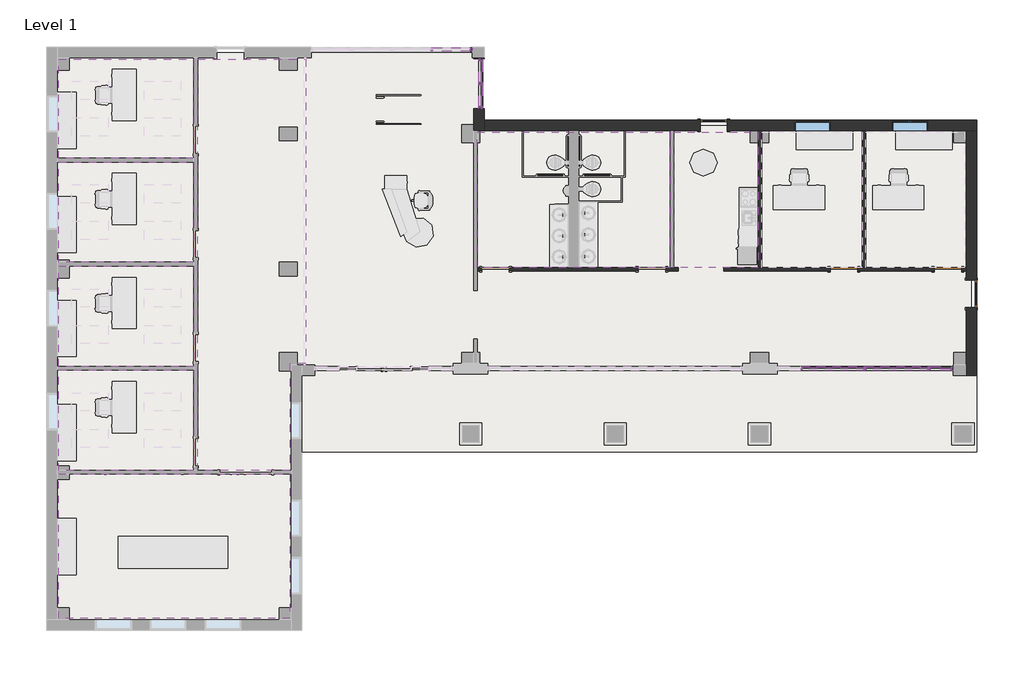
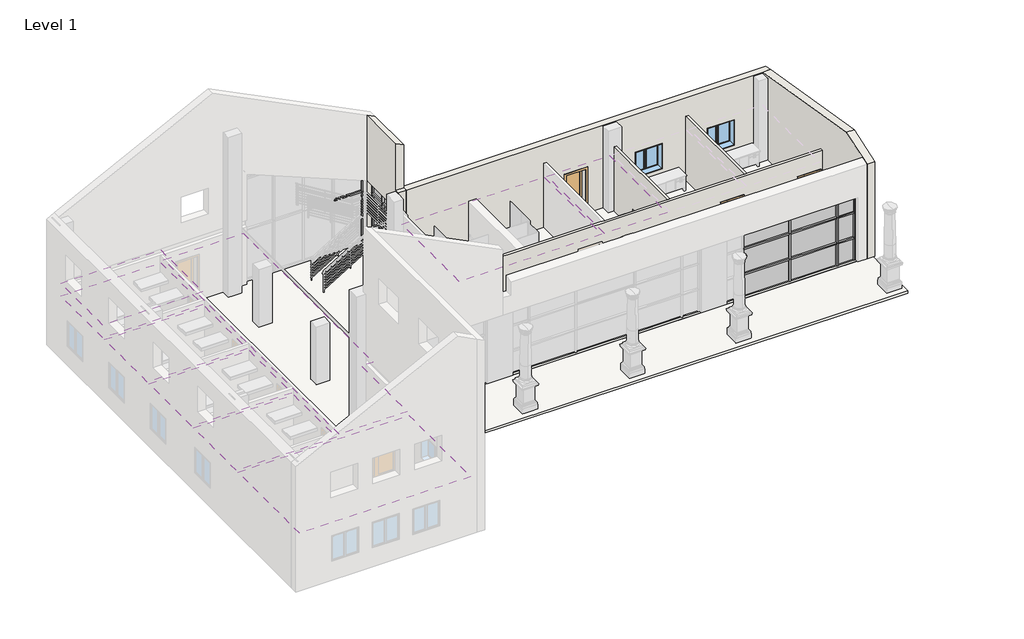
# One storey, part 3 of 8: 34 members, 13 plates, 9 coverings, 6 walls, 4 doors, 2 slabs, 2 windows.
"""IFC4 building model written with IfcOpenShell, lengths in millimetres."""

from ifc_helpers import new_model, si_unit, point, frame, origin, origin_with_axes, place, context, project, spatial, polyline, ellipse_curve, trimmed, outline, extrude, faceted_brep, transform, mapped, element, save
from ifc_brep_helpers import plane_surface, extruded_surface, advanced_brep
from components import door_88503111, door_14e9a3b2, door_2118299b, member_a715cb85, member_2b49869a, member_4f1c84db, member_a43dcf29, member_c4de40ee, member_75074519, member_3374d9b6, member_c17f1be2, member_f0fea5a5, member_ee409385, member_ba1b3d85, member_3a0a7659, member_7b995701, member_3ca69e07, member_338de68b, member_7b5ecba7, member_8ee6d85e, member_21124f0b, member_e196a3dc, system_panel_glazed_93fe6fa7, system_panel_glazed_6ce5e085, system_panel_glazed_6c402c5f, system_panel_glazed_28aac04d, system_panel_glazed_65d20654, system_panel_glazed_ef97d2b3, system_panel_glazed_49c46af5, system_panel_solid_fb0cd2a2, window_75435c65

model = new_model("IFC4")

# Units and contexts
model_context = context("Model", 3, world=origin())
ifc_project = project(units=[si_unit("LENGTHUNIT", "METRE", prefix="MILLI")], contexts=[model_context])

# Site, building, storey
site = spatial("IfcSite", under=ifc_project)
building = spatial("IfcBuilding", under=site)
storey = spatial("IfcBuildingStorey", under=building, Name="Level 1", Elevation=0.0)

# Coverings
placement = place(None, origin())
element("IfcCovering", 1, ObjectType="2' x 4' ACT System", at=placement, inside=storey, context=model_context, shape_type="SweptSolid", body=[
    extrude(outline(polyline([(-9011.7016552, 7211.1980424), (-13532.9016552, 7211.1980424), (-13532.9016552, 10517.9605424), (-9011.7016552, 10517.9605424), (-9011.7016552, 7211.1980424)])), frame((0.0, 0.0, 3048.0), z_axis=(0.0, 0.0, 1.0), x_axis=(1.0, 0.0, 0.0)), (0.0, 0.0, 1.0), 57.15),
])
element("IfcCovering", 2, ObjectType="2' x 4' ACT System", at=placement, inside=storey, context=model_context, shape_type="SweptSolid", body=[
    extrude(outline(polyline([(-9011.7016552, 10517.9605424), (-9011.7016552, 7211.1980424), (-13532.9016552, 7211.1980424), (-13532.9016552, 10517.9605424), (-9011.7016552, 10517.9605424)]), holes=[polyline([(-11881.9016552, 9778.9792924), (-13101.1016552, 9778.9792924), (-13101.1016552, 9169.3792924), (-11881.9016552, 9169.3792924), (-11881.9016552, 9778.9792924)]), polyline([(-9443.5016552, 9778.9792924), (-10662.7016552, 9778.9792924), (-10662.7016552, 9169.3792924), (-9443.5016552, 9169.3792924), (-9443.5016552, 9778.9792924)]), polyline([(-9443.5016552, 8559.7792924), (-10662.7016552, 8559.7792924), (-10662.7016552, 7950.1792924), (-9443.5016552, 7950.1792924), (-9443.5016552, 8559.7792924)]), polyline([(-11881.9016552, 8559.7792924), (-13101.1016552, 8559.7792924), (-13101.1016552, 7950.1792924), (-11881.9016552, 7950.1792924), (-11881.9016552, 8559.7792924)])]), frame((0.0, 0.0, 2438.4), z_axis=(0.0, 0.0, 1.0), x_axis=(1.0, 0.0, 0.0)), (0.0, 0.0, 1.0), 57.15),
])
element("IfcCovering", 3, ObjectType="2' x 4' ACT System", at=placement, inside=storey, context=model_context, shape_type="SweptSolid", body=[
    extrude(outline(polyline([(-13532.9016552, 7087.3730424), (-9011.7016552, 7087.3730424), (-9011.7016552, 3729.8105424), (-13532.9016552, 3729.8105424), (-13532.9016552, 7087.3730424)]), holes=[polyline([(-11881.9016552, 5713.3917924), (-11881.9016552, 6322.9917924), (-13101.1016552, 6322.9917924), (-13101.1016552, 5713.3917924), (-11881.9016552, 5713.3917924)]), polyline([(-10662.7016552, 5713.3917924), (-9443.5016552, 5713.3917924), (-9443.5016552, 6322.9917924), (-10662.7016552, 6322.9917924), (-10662.7016552, 5713.3917924)]), polyline([(-10662.7016552, 4494.1917924), (-9443.5016552, 4494.1917924), (-9443.5016552, 5103.7917924), (-10662.7016552, 5103.7917924), (-10662.7016552, 4494.1917924)]), polyline([(-11881.9016552, 5103.7917924), (-13101.1016552, 5103.7917924), (-13101.1016552, 4494.1917924), (-11881.9016552, 4494.1917924), (-11881.9016552, 5103.7917924)])]), frame((0.0, 0.0, 2438.4), z_axis=(0.0, 0.0, 1.0), x_axis=(1.0, 0.0, 0.0)), (0.0, 0.0, 1.0), 57.15),
])
element("IfcCovering", 4, ObjectType="2' x 4' ACT System", at=placement, inside=storey, context=model_context, shape_type="SweptSolid", body=[
    extrude(outline(polyline([(-13532.9016552, 3605.9855424), (-9011.7016552, 3605.9855424), (-9011.7016552, 248.4230424), (-13532.9016552, 248.4230424), (-13532.9016552, 3605.9855424)]), holes=[polyline([(-11881.9016552, 2232.0042924), (-11881.9016552, 2841.6042924), (-13101.1016552, 2841.6042924), (-13101.1016552, 2232.0042924), (-11881.9016552, 2232.0042924)]), polyline([(-10662.7016552, 2232.0042924), (-9443.5016552, 2232.0042924), (-9443.5016552, 2841.6042924), (-10662.7016552, 2841.6042924), (-10662.7016552, 2232.0042924)]), polyline([(-10662.7016552, 1012.8042924), (-9443.5016552, 1012.8042924), (-9443.5016552, 1622.4042924), (-10662.7016552, 1622.4042924), (-10662.7016552, 1012.8042924)]), polyline([(-11881.9016552, 1622.4042924), (-13101.1016552, 1622.4042924), (-13101.1016552, 1012.8042924), (-11881.9016552, 1012.8042924), (-11881.9016552, 1622.4042924)])]), frame((0.0, 0.0, 2438.4), z_axis=(0.0, 0.0, 1.0), x_axis=(1.0, 0.0, 0.0)), (0.0, 0.0, 1.0), 57.15),
])
element("IfcCovering", 5, ObjectType="2' x 4' ACT System", at=placement, inside=storey, context=model_context, shape_type="SweptSolid", body=[
    extrude(outline(polyline([(-13532.9016552, 124.5980424), (-9011.7016552, 124.5980424), (-9011.7016552, -3232.9644576), (-13532.9016552, -3232.9644576), (-13532.9016552, 124.5980424)]), holes=[polyline([(-11881.9016552, -1249.3832076), (-11881.9016552, -639.7832076), (-13101.1016552, -639.7832076), (-13101.1016552, -1249.3832076), (-11881.9016552, -1249.3832076)]), polyline([(-10662.7016552, -1249.3832076), (-9443.5016552, -1249.3832076), (-9443.5016552, -639.7832076), (-10662.7016552, -639.7832076), (-10662.7016552, -1249.3832076)]), polyline([(-10662.7016552, -2468.5832076), (-9443.5016552, -2468.5832076), (-9443.5016552, -1858.9832076), (-10662.7016552, -1858.9832076), (-10662.7016552, -2468.5832076)]), polyline([(-11881.9016552, -1858.9832076), (-13101.1016552, -1858.9832076), (-13101.1016552, -2468.5832076), (-11881.9016552, -2468.5832076), (-11881.9016552, -1858.9832076)])]), frame((0.0, 0.0, 2438.4), z_axis=(0.0, 0.0, 1.0), x_axis=(1.0, 0.0, 0.0)), (0.0, 0.0, 1.0), 57.15),
])
element("IfcCovering", 6, ObjectType="5/8\" GWB on Mtl. Stud", at=placement, inside=storey, context=model_context, shape_type="SweptSolid", body=[
    extrude(outline(polyline([(-13532.9016552, -3356.7894576), (-5804.9516552, -3356.7894576), (-5804.9516552, -8182.7894576), (-13532.9016552, -8182.7894576), (-13532.9016552, -3356.7894576)])), frame((0.0, 0.0, 2438.4), z_axis=(0.0, 0.0, 1.0), x_axis=(1.0, 0.0, 0.0)), (0.0, 0.0, 1.0), 107.95),
])
element("IfcCovering", 7, ObjectType="5/8\" GWB on Mtl. Stud", at=placement, inside=storey, context=model_context, shape_type="SweptSolid", body=[
    extrude(outline(polyline([(6904.5733448, 3558.3605424), (465.6733448, 3558.3605424), (465.6733448, 8079.5605424), (6904.5733448, 8079.5605424), (6904.5733448, 3558.3605424)])), frame((0.0, 0.0, 2438.4), z_axis=(0.0, 0.0, 1.0), x_axis=(1.0, 0.0, 0.0)), (0.0, 0.0, 1.0), 107.95),
])
element("IfcCovering", 8, ObjectType="5/8\" GWB on Mtl. Stud", at=placement, inside=storey, context=model_context, shape_type="SweptSolid", body=[
    extrude(outline(polyline([(9847.7983448, 3558.3605424), (7028.3983448, 3558.3605424), (7028.3983448, 8079.5605424), (9847.7983448, 8079.5605424), (9847.7983448, 3558.3605424)])), frame((0.0, 0.0, 2438.4), z_axis=(0.0, 0.0, 1.0), x_axis=(1.0, 0.0, 0.0)), (0.0, 0.0, 1.0), 107.95),
])
element("IfcCovering", 9, ObjectType="5/8\" GWB on Mtl. Stud", at=placement, inside=storey, context=model_context, shape_type="Brep", body=[
    faceted_brep([(-5804.9516552, -3232.9644576, 2647.95), (-5804.9516552, 351.6105424, 2647.95), (-5323.9391552, 351.6105424, 2647.95), (-5273.1391552, 351.6105424, 2647.95), (-5273.1391552, 10517.9605424, 2647.95), (-5323.9391552, 10517.9605424, 2647.95), (-8887.8766552, 10517.9605424, 2647.95), (-8887.8766552, -3232.9644576, 2647.95), (-6160.5516552, 3729.8105424, 2647.95), (-5550.9516552, 3729.8105424, 2647.95), (-5550.9516552, 3272.6105424, 2647.95), (-6160.5516552, 3272.6105424, 2647.95), (-6160.5516552, 8257.3605424, 2647.95), (-5550.9516552, 8257.3605424, 2647.95), (-5550.9516552, 7800.1605424, 2647.95), (-6160.5516552, 7800.1605424, 2647.95), (-5804.9516552, 351.6105424, 2540.0), (-5804.9516552, -3232.9644576, 2540.0), (-8887.8766552, -3232.9644576, 2540.0), (-8887.8766552, 10517.9605424, 2540.0), (-5323.9391552, 10517.9605424, 2540.0), (-5273.1391552, 10517.9605424, 2540.0), (-5273.1391552, 351.6105424, 2540.0), (-5323.9391552, 351.6105424, 2540.0), (-5550.9516552, 3729.8105424, 2540.0), (-6160.5516552, 3729.8105424, 2540.0), (-6160.5516552, 3272.6105424, 2540.0), (-5550.9516552, 3272.6105424, 2540.0), (-5550.9516552, 8257.3605424, 2540.0), (-6160.5516552, 8257.3605424, 2540.0), (-6160.5516552, 7800.1605424, 2540.0), (-5550.9516552, 7800.1605424, 2540.0)], [[[0, 1, 2, 3, 4, 5, 6, 7], [8, 9, 10, 11], [12, 13, 14, 15]], [[16, 17, 18, 19, 20, 21, 22, 23], [24, 25, 26, 27], [28, 29, 30, 31]], [[1, 0, 17, 16]], [[3, 2, 1, 16, 23, 22]], [[4, 3, 22, 21]], [[6, 5, 4, 21, 20, 19]], [[7, 6, 19, 18]], [[0, 7, 18, 17]], [[24, 9, 8, 25]], [[25, 8, 11, 26]], [[26, 11, 10, 27]], [[9, 24, 27, 10]], [[28, 13, 12, 29]], [[29, 12, 15, 30]], [[30, 15, 14, 31]], [[13, 28, 31, 14]]]),
])

# Doors
door_shape = door_88503111(model_context)
element("IfcDoor", 10, ObjectType="Single-Flush : 36\" x 84\"", at=placement, inside=storey, context=model_context, shape_type="MappedRepresentation", body=[
    mapped(door_shape, transform((16191.4483448, 3496.4480424, 0.0), x_axis=(1.0, 0.0, 0.0), y_axis=(0.0, 1.0, 0.0), z_axis=(0.0, 0.0, 1.0))),
])
element("IfcDoor", 11, ObjectType="Single-Flush : 36\" x 84\"", at=placement, inside=storey, context=model_context, shape_type="MappedRepresentation", body=[
    mapped(door_shape, transform((12714.8233448, 3496.4480424, 0.0), x_axis=(1.0, 0.0, 0.0), y_axis=(0.0, 1.0, 0.0), z_axis=(0.0, 0.0, 1.0))),
])
door_2_shape = door_14e9a3b2(model_context)
element("IfcDoor", 12, ObjectType="Single-Glass 1 : 36\" x 84\"", at=placement, inside=storey, context=model_context, shape_type="MappedRepresentation", body=[
    mapped(door_2_shape, transform((8365.0733448, 8306.5730424, 0.0), x_axis=(1.0, 0.0, 0.0), y_axis=(0.0, 1.0, 0.0), z_axis=(0.0, 0.0, 1.0))),
])
door_3_shape = door_2118299b(model_context)
element("IfcDoor", 13, ObjectType="Single-Glass 1 : 36\" x 84\"", at=placement, inside=storey, context=model_context, shape_type="MappedRepresentation", body=[
    mapped(door_3_shape, transform((16977.2608448, 2672.5355424, 0.0), x_axis=(0.0, 1.0, 0.0), y_axis=(-1.0, 0.0, 0.0), z_axis=(0.0, 0.0, 1.0))),
])

# Members
member_shape = member_a715cb85(model_context)
element("IfcMember", 14, ObjectType="Rectangular Mullion : 2.5\" x 5\" Rectangular", at=placement, inside=storey, context=model_context, shape_type="MappedRepresentation", body=[
    mapped(member_shape, transform((13414.9108448, 175.3980424, 0.0), x_axis=(1.0, 0.0, 0.0), y_axis=(0.0, -1.0, 0.0), z_axis=(0.0, 0.0, -1.0))),
])
element("IfcMember", 15, ObjectType="Rectangular Mullion : 2.5\" x 5\" Rectangular", at=placement, inside=storey, context=model_context, shape_type="MappedRepresentation", body=[
    mapped(member_shape, transform((15548.5108448, 175.3980424, 0.0), x_axis=(1.0, 0.0, 0.0), y_axis=(0.0, -1.0, 0.0), z_axis=(0.0, 0.0, -1.0))),
])
member_2_shape = member_2b49869a(model_context)
element("IfcMember", 16, ObjectType="Rectangular Mullion : 2.5\" x 5\" Rectangular", at=placement, inside=storey, context=model_context, shape_type="MappedRepresentation", body=[
    mapped(member_2_shape, transform((13414.9108448, 175.3980424, 1066.8), x_axis=(1.0, 0.0, 0.0), y_axis=(0.0, -1.0, 0.0), z_axis=(0.0, 0.0, -1.0))),
])
element("IfcMember", 17, ObjectType="Rectangular Mullion : 2.5\" x 5\" Rectangular", at=placement, inside=storey, context=model_context, shape_type="MappedRepresentation", body=[
    mapped(member_2_shape, transform((15548.5108448, 175.3980424, 1066.8), x_axis=(1.0, 0.0, 0.0), y_axis=(0.0, -1.0, 0.0), z_axis=(0.0, 0.0, -1.0))),
])
member_3_shape = member_4f1c84db(model_context)
element("IfcMember", 18, ObjectType="Rectangular Mullion : 2.5\" x 5\" Rectangular", at=placement, inside=storey, context=model_context, shape_type="MappedRepresentation", body=[
    mapped(member_3_shape, transform((15516.7608448, 175.3980424, 2286.0), x_axis=(0.0, 0.0, 1.0), y_axis=(0.0, -1.0, 0.0), z_axis=(1.0, 0.0, 0.0))),
])
element("IfcMember", 19, ObjectType="Rectangular Mullion : 2.5\" x 5\" Rectangular", at=placement, inside=storey, context=model_context, shape_type="MappedRepresentation", body=[
    mapped(member_3_shape, transform((13383.1608448, 175.3980424, 2286.0), x_axis=(0.0, 0.0, 1.0), y_axis=(0.0, -1.0, 0.0), z_axis=(1.0, 0.0, 0.0))),
])
element("IfcMember", 20, ObjectType="Rectangular Mullion : 2.5\" x 5\" Rectangular", at=placement, inside=storey, context=model_context, shape_type="MappedRepresentation", body=[
    mapped(member_3_shape, transform((13383.1608448, 175.3980424, 1066.8), x_axis=(0.0, 0.0, 1.0), y_axis=(0.0, -1.0, 0.0), z_axis=(1.0, 0.0, 0.0))),
])
element("IfcMember", 21, ObjectType="Rectangular Mullion : 2.5\" x 5\" Rectangular", at=placement, inside=storey, context=model_context, shape_type="MappedRepresentation", body=[
    mapped(member_3_shape, transform((15516.7608448, 175.3980424, 1066.8), x_axis=(0.0, 0.0, 1.0), y_axis=(0.0, -1.0, 0.0), z_axis=(1.0, 0.0, 0.0))),
])
member_4_shape = member_a43dcf29(model_context)
element("IfcMember", 22, ObjectType="Rectangular Mullion : 2.5\" x 5\" Rectangular", at=placement, inside=storey, context=model_context, shape_type="MappedRepresentation", body=[
    mapped(member_4_shape, transform((16304.1608448, 175.3980424, 2286.0), x_axis=(0.0, 0.0, 1.0), y_axis=(0.0, -1.0, 0.0), z_axis=(1.0, 0.0, 0.0))),
])
element("IfcMember", 23, ObjectType="Rectangular Mullion : 2.5\" x 5\" Rectangular", at=placement, inside=storey, context=model_context, shape_type="MappedRepresentation", body=[
    mapped(member_4_shape, transform((16304.1608448, 175.3980424, 1066.8), x_axis=(0.0, 0.0, 1.0), y_axis=(0.0, -1.0, 0.0), z_axis=(1.0, 0.0, 0.0))),
])
member_5_shape = member_c4de40ee(model_context)
element("IfcMember", 24, ObjectType="Rectangular Mullion : 2.5\" x 5\" Rectangular", at=placement, inside=storey, context=model_context, shape_type="MappedRepresentation", body=[
    mapped(member_5_shape, transform((16367.6608448, 175.3980424, 0.0), x_axis=(1.0, 0.0, 0.0), y_axis=(0.0, -1.0, 0.0), z_axis=(0.0, 0.0, -1.0))),
])
member_6_shape = member_75074519(model_context)
element("IfcMember", 25, ObjectType="Rectangular Mullion : 2.5\" x 5\" Rectangular", at=placement, inside=storey, context=model_context, shape_type="MappedRepresentation", body=[
    mapped(member_6_shape, transform((16367.6608448, 175.3980424, 1066.8), x_axis=(1.0, 0.0, 0.0), y_axis=(0.0, -1.0, 0.0), z_axis=(0.0, 0.0, -1.0))),
])
member_7_shape = member_3374d9b6(model_context)
element("IfcMember", 26, ObjectType="Rectangular Mullion : 2.5\" x 5\" Rectangular", at=placement, inside=storey, context=model_context, shape_type="MappedRepresentation", body=[
    mapped(member_7_shape, transform((15548.5108448, 175.3980424, 3060.0), x_axis=(0.0, 0.0, 1.0), y_axis=(0.0, -1.0, 0.0), z_axis=(1.0, 0.0, 0.0))),
])
element("IfcMember", 27, ObjectType="Rectangular Mullion : 2.5\" x 5\" Rectangular", at=placement, inside=storey, context=model_context, shape_type="MappedRepresentation", body=[
    mapped(member_7_shape, transform((13414.9108448, 175.3980424, 3060.0), x_axis=(0.0, 0.0, 1.0), y_axis=(0.0, -1.0, 0.0), z_axis=(1.0, 0.0, 0.0))),
])
member_8_shape = member_c17f1be2(model_context)
element("IfcMember", 28, ObjectType="Rectangular Mullion : 2.5\" x 5\" Rectangular", at=placement, inside=storey, context=model_context, shape_type="MappedRepresentation", body=[
    mapped(member_8_shape, transform((16367.6608448, 175.3980424, 3060.0), x_axis=(0.0, 0.0, 1.0), y_axis=(0.0, -1.0, 0.0), z_axis=(1.0, 0.0, 0.0))),
])
member_9_shape = member_f0fea5a5(model_context)
element("IfcMember", 29, ObjectType="Rectangular Mullion : 2.5\" x 5\" Rectangular", at=placement, inside=storey, context=model_context, shape_type="MappedRepresentation", body=[
    mapped(member_9_shape, transform((581.5608448, 9701.9855424, 0.0), x_axis=(0.0, -1.0, 0.0), y_axis=(-1.0, 0.0, 0.0), z_axis=(0.0, 0.0, -1.0))),
])
member_10_shape = member_ee409385(model_context)
element("IfcMember", 30, ObjectType="Rectangular Mullion : 2.5\" x 5\" Rectangular", at=placement, inside=storey, context=model_context, shape_type="MappedRepresentation", body=[
    mapped(member_10_shape, transform((291.0483448, 10846.5730424, 0.0), x_axis=(1.0, 0.0, 0.0), y_axis=(0.0, -1.0, 0.0), z_axis=(0.0, 0.0, -1.0))),
])
element("IfcMember", 31, ObjectType="Rectangular Mullion : 2.5\" x 5\" Rectangular", at=placement, inside=storey, context=model_context, shape_type="MappedRepresentation", body=[
    mapped(member_10_shape, transform((581.5608448, 8863.7855424, 0.0), x_axis=(0.0, -1.0, 0.0), y_axis=(-1.0, 0.0, 0.0), z_axis=(0.0, 0.0, -1.0))),
])
element("IfcMember", 32, ObjectType="Rectangular Mullion : 2.5\" x 5\" Rectangular", at=placement, inside=storey, context=model_context, shape_type="MappedRepresentation", body=[
    mapped(member_10_shape, transform((581.5608448, 10540.1855424, 2438.4), x_axis=(0.0, 1.0, 0.0), y_axis=(-1.0, 0.0, 0.0), z_axis=(0.0, 0.0, 1.0))),
])
member_11_shape = member_ba1b3d85(model_context)
element("IfcMember", 33, ObjectType="Rectangular Mullion : 2.5\" x 5\" Rectangular", at=placement, inside=storey, context=model_context, shape_type="MappedRepresentation", body=[
    mapped(member_11_shape, transform((227.5483448, 10846.5730424, 2438.4), x_axis=(0.0, 0.0, 1.0), y_axis=(0.0, -1.0, 0.0), z_axis=(1.0, 0.0, 0.0))),
])
member_12_shape = member_3a0a7659(model_context)
element("IfcMember", 34, ObjectType="Rectangular Mullion : 2.5\" x 5\" Rectangular", at=placement, inside=storey, context=model_context, shape_type="MappedRepresentation", body=[
    mapped(member_12_shape, transform((581.5608448, 8927.2855424, 3060.0), x_axis=(0.0, 0.0, 1.0), y_axis=(-1.0, 0.0, 0.0), z_axis=(0.0, -1.0, 0.0))),
])
element("IfcMember", 35, ObjectType="Rectangular Mullion : 2.5\" x 5\" Rectangular", at=placement, inside=storey, context=model_context, shape_type="MappedRepresentation", body=[
    mapped(member_12_shape, transform((581.5608448, 9733.7355424, 3060.0), x_axis=(0.0, 0.0, 1.0), y_axis=(-1.0, 0.0, 0.0), z_axis=(0.0, -1.0, 0.0))),
])
element("IfcMember", 36, ObjectType="Rectangular Mullion : 2.5\" x 5\" Rectangular", at=placement, inside=storey, context=model_context, shape_type="MappedRepresentation", body=[
    mapped(member_12_shape, transform((581.5608448, 10476.6855424, 0.0), x_axis=(0.0, 0.0, -1.0), y_axis=(-1.0, 0.0, 0.0), z_axis=(0.0, 1.0, 0.0))),
])
element("IfcMember", 37, ObjectType="Rectangular Mullion : 2.5\" x 5\" Rectangular", at=placement, inside=storey, context=model_context, shape_type="MappedRepresentation", body=[
    mapped(member_12_shape, transform((581.5608448, 9670.2355424, 0.0), x_axis=(0.0, 0.0, -1.0), y_axis=(-1.0, 0.0, 0.0), z_axis=(0.0, 1.0, 0.0))),
])
member_13_shape = member_7b995701(model_context)
element("IfcMember", 38, ObjectType="Rectangular Mullion : 2.5\" x 5\" Rectangular", at=placement, inside=storey, context=model_context, shape_type="MappedRepresentation", body=[
    mapped(member_13_shape, transform((581.5608448, 9733.7355424, 2438.4), x_axis=(0.0, 0.0, 1.0), y_axis=(-1.0, 0.0, 0.0), z_axis=(0.0, -1.0, 0.0))),
])
element("IfcMember", 39, ObjectType="Rectangular Mullion : 2.5\" x 5\" Rectangular", at=placement, inside=storey, context=model_context, shape_type="MappedRepresentation", body=[
    mapped(member_13_shape, transform((581.5608448, 8927.2855424, 2438.4), x_axis=(0.0, 0.0, 1.0), y_axis=(-1.0, 0.0, 0.0), z_axis=(0.0, -1.0, 0.0))),
])
member_14_shape = member_3ca69e07(model_context)
element("IfcMember", 40, ObjectType="Rectangular Mullion : 2.5\" x 5\" Rectangular", at=placement, inside=storey, context=model_context, shape_type="MappedRepresentation", body=[
    mapped(member_14_shape, transform((13414.9108448, 175.3980424, 2286.0), x_axis=(1.0, 0.0, 0.0), y_axis=(0.0, -1.0, 0.0), z_axis=(0.0, 0.0, -1.0))),
])
element("IfcMember", 41, ObjectType="Rectangular Mullion : 2.5\" x 5\" Rectangular", at=placement, inside=storey, context=model_context, shape_type="MappedRepresentation", body=[
    mapped(member_14_shape, transform((15548.5108448, 175.3980424, 2286.0), x_axis=(1.0, 0.0, 0.0), y_axis=(0.0, -1.0, 0.0), z_axis=(0.0, 0.0, -1.0))),
])
member_15_shape = member_338de68b(model_context)
element("IfcMember", 42, ObjectType="Rectangular Mullion : 2.5\" x 5\" Rectangular", at=placement, inside=storey, context=model_context, shape_type="MappedRepresentation", body=[
    mapped(member_15_shape, transform((16367.6608448, 175.3980424, 2286.0), x_axis=(1.0, 0.0, 0.0), y_axis=(0.0, -1.0, 0.0), z_axis=(0.0, 0.0, -1.0))),
])
member_16_shape = member_7b5ecba7(model_context)
element("IfcMember", 43, ObjectType="Rectangular Mullion : 2.5\" x 5\" Rectangular", at=placement, inside=storey, context=model_context, shape_type="MappedRepresentation", body=[
    mapped(member_16_shape, transform((291.0483448, 10846.5730424, 3060.0), x_axis=(0.37916366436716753, 0.0, 0.9253296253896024), y_axis=(0.0, -1.0, 0.0), z_axis=(0.9253296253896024, 0.0, -0.37916366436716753))),
])
member_17_shape = member_8ee6d85e(model_context)
element("IfcMember", 44, ObjectType="Rectangular Mullion : 2.5\" x 5\" Rectangular", at=placement, inside=storey, context=model_context, shape_type="MappedRepresentation", body=[
    mapped(member_17_shape, transform((291.0483448, 10846.5730424, 2438.4), x_axis=(1.0, 0.0, 0.0), y_axis=(0.0, -1.0, 0.0), z_axis=(0.0, 0.0, -1.0))),
])
member_18_shape = member_21124f0b(model_context)
element("IfcMember", 45, ObjectType="Rectangular Mullion : 2.5\" x 5\" Rectangular", at=placement, inside=storey, context=model_context, shape_type="MappedRepresentation", body=[
    mapped(member_18_shape, transform((581.5608448, 9701.9855424, 2438.4), x_axis=(0.0, -1.0, 0.0), y_axis=(-1.0, 0.0, 0.0), z_axis=(0.0, 0.0, -1.0))),
])
member_19_shape = member_e196a3dc(model_context)
element("IfcMember", 46, ObjectType="Rectangular Mullion : 2.5\" x 5\" Rectangular", at=placement, inside=storey, context=model_context, shape_type="MappedRepresentation", body=[
    mapped(member_19_shape, transform((581.5608448, 8863.7855424, 2438.4), x_axis=(0.0, -1.0, 0.0), y_axis=(-1.0, 0.0, 0.0), z_axis=(0.0, 0.0, -1.0))),
])
element("IfcMember", 47, ObjectType="Rectangular Mullion : 2.5\" x 5\" Rectangular", at=placement, inside=storey, context=model_context, shape_type="MappedRepresentation", body=[
    mapped(member_19_shape, transform((581.5608448, 10540.1855424, 3060.0), x_axis=(0.0, 1.0, 0.0), y_axis=(-1.0, 0.0, 0.0), z_axis=(0.0, 0.0, 1.0))),
])

# Plates
system_panel_glazed_shape = system_panel_glazed_93fe6fa7(model_context)
element("IfcPlate", 48, ObjectType="System Panel : Glazed", at=placement, inside=storey, context=model_context, shape_type="MappedRepresentation", body=[
    mapped(system_panel_glazed_shape, transform((12348.1108448, 175.3980424, 0.0), x_axis=(1.0, 0.0, 0.0), y_axis=(0.0, 1.0, 0.0), z_axis=(0.0, 0.0, 1.0))),
])
element("IfcPlate", 49, ObjectType="System Panel : Glazed", at=placement, inside=storey, context=model_context, shape_type="MappedRepresentation", body=[
    mapped(system_panel_glazed_shape, transform((14481.7108448, 175.3980424, 0.0), x_axis=(1.0, 0.0, 0.0), y_axis=(0.0, 1.0, 0.0), z_axis=(0.0, 0.0, 1.0))),
])
system_panel_glazed_2_shape = system_panel_glazed_6ce5e085(model_context)
element("IfcPlate", 50, ObjectType="System Panel : Glazed", at=placement, inside=storey, context=model_context, shape_type="MappedRepresentation", body=[
    mapped(system_panel_glazed_2_shape, transform((12348.1108448, 175.3980424, 1098.55), x_axis=(1.0, 0.0, 0.0), y_axis=(0.0, 1.0, 0.0), z_axis=(0.0, 0.0, 1.0))),
])
element("IfcPlate", 51, ObjectType="System Panel : Glazed", at=placement, inside=storey, context=model_context, shape_type="MappedRepresentation", body=[
    mapped(system_panel_glazed_2_shape, transform((14481.7108448, 175.3980424, 1098.55), x_axis=(1.0, 0.0, 0.0), y_axis=(0.0, 1.0, 0.0), z_axis=(0.0, 0.0, 1.0))),
])
system_panel_glazed_3_shape = system_panel_glazed_6c402c5f(model_context)
element("IfcPlate", 52, ObjectType="System Panel : Glazed", at=placement, inside=storey, context=model_context, shape_type="MappedRepresentation", body=[
    mapped(system_panel_glazed_3_shape, transform((15942.2108448, 175.3980424, 0.0), x_axis=(1.0, 0.0, 0.0), y_axis=(0.0, 1.0, 0.0), z_axis=(0.0, 0.0, 1.0))),
])
system_panel_glazed_4_shape = system_panel_glazed_28aac04d(model_context)
element("IfcPlate", 53, ObjectType="System Panel : Glazed", at=placement, inside=storey, context=model_context, shape_type="MappedRepresentation", body=[
    mapped(system_panel_glazed_4_shape, transform((15942.2108448, 175.3980424, 1098.55), x_axis=(1.0, 0.0, 0.0), y_axis=(0.0, 1.0, 0.0), z_axis=(0.0, 0.0, 1.0))),
])
system_panel_glazed_5_shape = system_panel_glazed_65d20654(model_context)
element("IfcPlate", 54, ObjectType="System Panel : Glazed", at=placement, inside=storey, context=model_context, shape_type="MappedRepresentation", body=[
    mapped(system_panel_glazed_5_shape, transform((581.5608448, 10105.2105424, 63.5), x_axis=(0.0, -1.0, 0.0), y_axis=(1.0, 0.0, 0.0), z_axis=(0.0, 0.0, 1.0))),
])
element("IfcPlate", 55, ObjectType="System Panel : Glazed", at=placement, inside=storey, context=model_context, shape_type="MappedRepresentation", body=[
    mapped(system_panel_glazed_5_shape, transform((581.5608448, 9298.7605424, 63.5), x_axis=(0.0, -1.0, 0.0), y_axis=(1.0, 0.0, 0.0), z_axis=(0.0, 0.0, 1.0))),
])
system_panel_glazed_6_shape = system_panel_glazed_ef97d2b3(model_context)
element("IfcPlate", 56, ObjectType="System Panel : Glazed", at=placement, inside=storey, context=model_context, shape_type="MappedRepresentation", body=[
    mapped(system_panel_glazed_6_shape, transform((12348.1108448, 175.3980424, 2317.75), x_axis=(1.0, 0.0, 0.0), y_axis=(0.0, 1.0, 0.0), z_axis=(0.0, 0.0, 1.0))),
])
element("IfcPlate", 57, ObjectType="System Panel : Glazed", at=placement, inside=storey, context=model_context, shape_type="MappedRepresentation", body=[
    mapped(system_panel_glazed_6_shape, transform((14481.7108448, 175.3980424, 2317.75), x_axis=(1.0, 0.0, 0.0), y_axis=(0.0, 1.0, 0.0), z_axis=(0.0, 0.0, 1.0))),
])
system_panel_glazed_7_shape = system_panel_glazed_49c46af5(model_context)
element("IfcPlate", 58, ObjectType="System Panel : Glazed", at=placement, inside=storey, context=model_context, shape_type="MappedRepresentation", body=[
    mapped(system_panel_glazed_7_shape, transform((581.5608448, 10105.2105424, 2470.15), x_axis=(0.0, -1.0, 0.0), y_axis=(1.0, 0.0, 0.0), z_axis=(0.0, 0.0, 1.0))),
])
element("IfcPlate", 59, ObjectType="System Panel : Glazed", at=placement, inside=storey, context=model_context, shape_type="MappedRepresentation", body=[
    mapped(system_panel_glazed_7_shape, transform((581.5608448, 9298.7605424, 2470.15), x_axis=(0.0, -1.0, 0.0), y_axis=(1.0, 0.0, 0.0), z_axis=(0.0, 0.0, 1.0))),
])
system_panel_solid_shape = system_panel_solid_fb0cd2a2(model_context)
element("IfcPlate", 60, ObjectType="System Panel : Solid", at=placement, inside=storey, context=model_context, shape_type="MappedRepresentation", body=[
    mapped(system_panel_solid_shape, transform((15942.2108448, 175.3980424, 2317.75), x_axis=(1.0, 0.0, 0.0), y_axis=(0.0, 1.0, 0.0), z_axis=(0.0, 0.0, 1.0))),
])

# Slabs
element("IfcSlab", 61, ObjectType="4\" Concrete Slab", at=placement, inside=storey, context=model_context, shape_type="SweptSolid", body=[
    extrude(outline(polyline([(506.9483448, 10733.8605424), (506.9483448, 8295.4605424), (16966.1483448, 8295.4605424), (16966.1483448, 135.7105424), (518.0608448, 135.7105424), (-5589.0516552, 135.7105424), (-5589.0516552, -8398.6894576), (-13748.8016552, -8398.6894576), (-13748.8016552, 10733.8605424), (506.9483448, 10733.8605424)])), frame((0.0, 0.0, -101.6), z_axis=(0.0, 0.0, 1.0), x_axis=(1.0, 0.0, 0.0)), (0.0, 0.0, 1.0), 101.6),
])
element("IfcSlab", 62, ObjectType="4\" Concrete Slab", at=placement, inside=storey, context=model_context, shape_type="SweptSolid", body=[
    extrude(outline(polyline([(17153.4733448, 124.5980424), (17153.4733448, -2618.6019576), (-5401.7266552, -2618.6019576), (-5401.7266552, 124.5980424), (17153.4733448, 124.5980424)])), frame((0.0, 0.0, -203.2), z_axis=(0.0, 0.0, 1.0), x_axis=(1.0, 0.0, 0.0)), (0.0, 0.0, 1.0), 101.6),
])

# Walls
element("IfcWall", 63, ObjectType="Exterior - Brick on Mtl. Stud", at=placement, inside=storey, context=model_context, shape_type="Brep", body=[
    faceted_brep([(341.8483448, 8306.5730424, 6182.55), (341.8483448, 10568.7605424, 6182.55), (341.8483448, 10568.7605424, 0.0), (341.8483448, 10540.1855424, 0.0), (341.8483448, 10540.1855424, 3060.0), (341.8483448, 8863.7855424, 3060.0), (341.8483448, 8863.7855424, 0.0), (341.8483448, 8333.5605424, 0.0), (341.8483448, 8130.3605424, 0.0), (341.8483448, 8130.3605424, 3060.0), (341.8483448, 8130.3605424, 3958.7375), (341.8483448, 8306.5730424, 3958.7375), (694.2733448, 10568.7605424, 6006.3375), (694.2733448, 8306.5730424, 6006.3375), (694.2733448, 8306.5730424, 3958.7375), (694.2733448, 8130.3605424, 3958.7375), (694.2733448, 8130.3605424, 3060.0), (694.2733448, 8130.3605424, 0.0), (694.2733448, 8482.7855424, 0.0), (694.2733448, 8863.7855424, 0.0), (694.2733448, 8863.7855424, 3060.0), (694.2733448, 10540.1855424, 3060.0), (694.2733448, 10540.1855424, 0.0), (694.2733448, 10568.7605424, 0.0), (545.0483448, 8130.3605424, 0.0), (465.6733448, 8130.3605424, 0.0)], [[[0, 1, 2, 3, 4, 5, 6, 7, 8, 9, 10, 11]], [[12, 13, 14, 15, 16, 17, 18, 19, 20, 21, 22, 23]], [[2, 23, 22, 3]], [[17, 24, 25, 8, 7, 6, 19, 18]], [[1, 0, 13, 12]], [[13, 0, 11, 14]], [[14, 11, 10, 15]], [[8, 25, 24, 17, 16, 15, 10, 9]], [[2, 1, 12, 23]], [[21, 4, 3, 22]], [[4, 21, 20, 5]], [[5, 20, 19, 6]]]),
])
element("IfcWall", 64, ObjectType="Exterior - Brick on Mtl. Stud", at=placement, inside=storey, context=model_context, shape_type="Brep", body=[
    faceted_brep([(8822.2733448, 8130.3605424, 2133.6), (8822.2733448, 8130.3605424, 0.0), (9587.4483448, 8130.3605424, 0.0), (9847.7983448, 8130.3605424, 0.0), (9971.6233448, 8130.3605424, 0.0), (10197.0483448, 8130.3605424, 0.0), (13324.4233448, 8130.3605424, 0.0), (13448.2483448, 8130.3605424, 0.0), (16394.6483448, 8130.3605424, 0.0), (16801.0483448, 8130.3605424, 0.0), (17153.4733448, 8130.3605424, 0.0), (17153.4733448, 8130.3605424, 3958.7375), (16801.0483448, 8130.3605424, 3958.7375), (694.2733448, 8130.3605424, 3958.7375), (694.2733448, 8130.3605424, 0.0), (3513.6733448, 8130.3605424, 0.0), (3856.5733448, 8130.3605424, 0.0), (6904.5733448, 8130.3605424, 0.0), (7028.3983448, 8130.3605424, 0.0), (7907.8733448, 8130.3605424, 0.0), (7907.8733448, 8130.3605424, 2133.6), (12276.6733448, 8130.3605424, 2133.6), (12276.6733448, 8130.3605424, 914.4), (11057.4733448, 8130.3605424, 914.4), (11057.4733448, 8130.3605424, 2133.6), (15527.8733448, 8130.3605424, 2133.6), (15527.8733448, 8130.3605424, 914.4), (14308.6733448, 8130.3605424, 914.4), (14308.6733448, 8130.3605424, 2133.6), (17153.4733448, 8482.7855424, 0.0), (8822.2733448, 8482.7855424, 0.0), (8822.2733448, 8482.7855424, 2133.6), (7907.8733448, 8482.7855424, 2133.6), (7907.8733448, 8482.7855424, 0.0), (694.2733448, 8482.7855424, 0.0), (694.2733448, 8482.7855424, 3900.0), (17153.4733448, 8482.7855424, 3900.0), (12276.6733448, 8482.7855424, 2133.6), (11057.4733448, 8482.7855424, 2133.6), (11057.4733448, 8482.7855424, 914.4), (12276.6733448, 8482.7855424, 914.4), (15527.8733448, 8482.7855424, 2133.6), (14308.6733448, 8482.7855424, 2133.6), (14308.6733448, 8482.7855424, 914.4), (15527.8733448, 8482.7855424, 914.4)], [[[0, 1, 2, 3, 4, 5, 6, 7, 8, 9, 10, 11, 12, 13, 14, 15, 16, 17, 18, 19, 20], [21, 22, 23, 24], [25, 26, 27, 28]], [[29, 30, 31, 32, 33, 34, 35, 36], [37, 38, 39, 40], [41, 42, 43, 44]], [[10, 9, 8, 7, 6, 5, 4, 3, 2, 1, 30, 29]], [[19, 18, 17, 16, 15, 14, 34, 33]], [[31, 30, 1, 0]], [[32, 31, 0, 20]], [[33, 32, 20, 19]], [[22, 21, 37, 40]], [[23, 22, 40, 39]], [[24, 23, 39, 38]], [[21, 24, 38, 37]], [[26, 25, 41, 44]], [[27, 26, 44, 43]], [[28, 27, 43, 42]], [[25, 28, 42, 41]], [[11, 10, 29, 36]], [[13, 35, 34, 14]], [[13, 12, 11, 36, 35]]]),
])
element("IfcWall", 65, ObjectType="Exterior - Brick on Mtl. Stud", at=placement, inside=storey, context=model_context, shape_type="Brep", body=[
    faceted_brep([(16801.0483448, 8130.3605424, 0.0), (16801.0483448, 7723.9605424, 0.0), (16801.0483448, 3558.3605424, 0.0), (16801.0483448, 3434.5355424, 0.0), (16801.0483448, 3129.7355424, 0.0), (16801.0483448, 3129.7355424, 2133.6), (16801.0483448, 2215.3355424, 2133.6), (16801.0483448, 2215.3355424, 0.0), (16801.0483448, 707.2105424, 0.0), (16801.0483448, 300.8105424, 0.0), (16801.0483448, -51.6144576, 0.0), (16801.0483448, -51.6144576, 4509.6), (16801.0483448, 300.8105424, 4627.075), (16801.0483448, 1573.9855424, 5051.4666667), (16801.0483448, 8130.3605424, 3958.7375), (16801.0483448, 8130.3605424, 3900.0), (17153.4733448, 3129.7355424, 2133.6), (17153.4733448, 3129.7355424, 0.0), (17153.4733448, 8130.3605424, 0.0), (17153.4733448, 8130.3605424, 3958.7375), (17153.4733448, 1573.9855424, 5051.4666667), (17153.4733448, -51.6144576, 4509.6), (17153.4733448, -51.6144576, 0.0), (17153.4733448, 2215.3355424, 0.0), (17153.4733448, 2215.3355424, 2133.6)], [[[0, 1, 2, 3, 4, 5, 6, 7, 8, 9, 10, 11, 12, 13, 14, 15]], [[16, 17, 18, 19, 20, 21, 22, 23, 24]], [[23, 22, 10, 9, 8, 7]], [[18, 17, 4, 3, 2, 1, 0]], [[5, 4, 17, 16]], [[6, 5, 16, 24]], [[7, 6, 24, 23]], [[14, 13, 20, 19]], [[13, 12, 11, 21, 20]], [[11, 10, 22, 21]], [[0, 15, 14, 19, 18]]]),
])
element("IfcWall", 66, ObjectType="Interior - 4 7/8\" Partition (1-hr)", at=placement, inside=storey, context=model_context, shape_type="AdvancedBrep", body=[
    advanced_brep(
    [(6752.1733448, 3434.5355424, 0.0), (7180.7983448, 3434.5355424, 0.0), (7180.7983448, 3434.5355424, 1828.8), (8704.7983448, 3434.5355424, 1828.8), (8704.7983448, 3434.5355424, 0.0), (12257.6233448, 3434.5355424, 0.0), (12257.6233448, 3434.5355424, 2133.6), (13172.0233448, 3434.5355424, 2133.6), (13172.0233448, 3434.5355424, 0.0), (15734.2483448, 3434.5355424, 0.0), (15734.2483448, 3434.5355424, 2133.6), (16648.6483448, 3434.5355424, 2133.6), (16648.6483448, 3434.5355424, 0.0), (16801.0483448, 3434.5355424, 0.0), (16801.0483448, 3434.5355424, 3060.0), (465.6733448, 3434.5355424, 3060.0), (465.6733448, 3434.5355424, 0.0), (618.0733448, 3434.5355424, 0.0), (618.0733448, 3434.5355424, 2133.6), (1532.4733448, 3434.5355424, 2133.6), (1532.4733448, 3434.5355424, 0.0), (5837.7733448, 3434.5355424, 0.0), (5837.7733448, 3434.5355424, 2133.6), (6752.1733448, 3434.5355424, 2133.6), (7180.7983448, 3558.3605424, 1828.8), (7180.7983448, 3558.3605424, 0.0), (7028.3983448, 3558.3605424, 0.0), (6904.5733448, 3558.3605424, 0.0), (6752.1733448, 3558.3605424, 0.0), (6752.1733448, 3558.3605424, 2133.6), (5837.7733448, 3558.3605424, 2133.6), (5837.7733448, 3558.3605424, 0.0), (3856.5733448, 3558.3605424, 0.0), (3513.6733448, 3558.3605424, 0.0), (1532.4733448, 3558.3605424, 0.0), (1532.4733448, 3558.3605424, 2133.6), (618.0733448, 3558.3605424, 2133.6), (618.0733448, 3558.3605424, 0.0), (465.6733448, 3558.3605424, 0.0), (465.6733448, 3558.3605424, 3060.0), (6904.5733448, 3558.3605424, 3060.0), (7028.3983448, 3558.3605424, 3060.0), (9847.7983448, 3558.3605424, 3060.0), (9971.6233448, 3558.3605424, 3060.0), (13324.4233448, 3558.3605424, 3060.0), (13448.2483448, 3558.3605424, 3060.0), (16801.0483448, 3558.3605424, 3060.0), (16801.0483448, 3558.3605424, 0.0), (16648.6483448, 3558.3605424, 0.0), (16648.6483448, 3558.3605424, 2133.6), (15734.2483448, 3558.3605424, 2133.6), (15734.2483448, 3558.3605424, 0.0), (13448.2483448, 3558.3605424, 0.0), (13324.4233448, 3558.3605424, 0.0), (13172.0233448, 3558.3605424, 0.0), (13172.0233448, 3558.3605424, 2133.6), (12257.6233448, 3558.3605424, 2133.6), (12257.6233448, 3558.3605424, 0.0), (9971.6233448, 3558.3605424, 0.0), (9847.7983448, 3558.3605424, 0.0), (8704.7983448, 3558.3605424, 0.0), (8704.7983448, 3558.3605424, 1828.8)],
    [
        (0, 1),
        (1, 2),
        (2, 3, ellipse_curve(frame((7942.7983448, 3434.5355424, 1828.8), z_axis=(0.0, 1.0, 0.0), x_axis=(-1.0, 0.0, 0.0)), 762.0, 304.8)),
        (3, 4),
        (4, 5),
        (5, 6),
        (6, 7),
        (7, 8),
        (8, 9),
        (9, 10),
        (10, 11),
        (11, 12),
        (12, 13),
        (13, 14),
        (14, 15),
        (15, 16),
        (16, 17),
        (17, 18),
        (18, 19),
        (19, 20),
        (20, 21),
        (21, 22),
        (22, 23),
        (23, 0),
        (24, 25),
        (25, 26),
        (26, 27),
        (27, 28),
        (28, 29),
        (29, 30),
        (30, 31),
        (31, 32),
        (32, 33),
        (33, 34),
        (34, 35),
        (35, 36),
        (36, 37),
        (37, 38),
        (38, 39),
        (39, 40),
        (40, 41),
        (41, 42),
        (42, 43),
        (43, 44),
        (44, 45),
        (45, 46),
        (46, 47),
        (47, 48),
        (48, 49),
        (49, 50),
        (50, 51),
        (51, 52),
        (52, 53),
        (53, 54),
        (54, 55),
        (55, 56),
        (56, 57),
        (57, 58),
        (58, 59),
        (59, 60),
        (60, 61),
        (61, 24, ellipse_curve(frame((7942.7983448, 3558.3605424, 1828.8), z_axis=(0.0, -1.0, 0.0), x_axis=(-1.0, 0.0, 0.0)), 762.0, 304.8)),
        (12, 48),
        (47, 13),
        (8, 54),
        (51, 9),
        (37, 17),
        (16, 38),
        (31, 21),
        (20, 34),
        (25, 1),
        (0, 28),
        (57, 5),
        (4, 60),
        (14, 46),
        (39, 15),
        (11, 49),
        (10, 50),
        (7, 55),
        (6, 56),
        (23, 29),
        (22, 30),
        (36, 18),
        (35, 19),
        (2, 24),
        (61, 3),
    ],
    [
        plane_surface(frame((2521.2785775, 3434.5355424, 0.0), z_axis=(0.0, -1.0, 0.0), x_axis=(1.0, 0.0, 0.0))),
        plane_surface(frame((2521.2785775, 3558.3605424, 0.0), z_axis=(0.0, 1.0, 0.0), x_axis=(-1.0, 0.0, 0.0))),
        plane_surface(frame((403.7608448, 3434.5355424, 0.0), z_axis=(0.0, 0.0, -1.0), x_axis=(0.0, 1.0, 0.0))),
        plane_surface(frame((16977.2608448, 3434.5355424, 3060.0), z_axis=(0.0, 0.0, 1.0), x_axis=(0.0, 1.0, 0.0))),
        plane_surface(frame((465.6733448, 8306.5730424, 0.0), z_axis=(-1.0, 0.0, 0.0), x_axis=(0.0, 1.0, 0.0))),
        plane_surface(frame((16648.6483448, 3558.3605424, 0.0), z_axis=(-1.0, 0.0, 0.0), x_axis=(0.0, -1.0, 0.0))),
        plane_surface(frame((16648.6483448, 3558.3605424, 2133.6), z_axis=(0.0, 0.0, -1.0), x_axis=(0.0, -1.0, 0.0))),
        plane_surface(frame((15734.2483448, 3558.3605424, 2133.6), z_axis=(1.0, 0.0, 0.0), x_axis=(0.0, -1.0, 0.0))),
        plane_surface(frame((13172.0233448, 3558.3605424, 0.0), z_axis=(-1.0, 0.0, 0.0), x_axis=(0.0, -1.0, 0.0))),
        plane_surface(frame((13172.0233448, 3558.3605424, 2133.6), z_axis=(0.0, 0.0, -1.0), x_axis=(0.0, -1.0, 0.0))),
        plane_surface(frame((12257.6233448, 3558.3605424, 2133.6), z_axis=(1.0, 0.0, 0.0), x_axis=(0.0, -1.0, 0.0))),
        plane_surface(frame((6752.1733448, 3558.3605424, 0.0), z_axis=(-1.0, 0.0, 0.0), x_axis=(0.0, -1.0, 0.0))),
        plane_surface(frame((6752.1733448, 3558.3605424, 2133.6), z_axis=(0.0, 0.0, -1.0), x_axis=(0.0, -1.0, 0.0))),
        plane_surface(frame((5837.7733448, 3558.3605424, 2133.6), z_axis=(1.0, 0.0, 0.0), x_axis=(0.0, -1.0, 0.0))),
        plane_surface(frame((618.0733448, 3434.5355424, 0.0), z_axis=(1.0, 0.0, 0.0), x_axis=(0.0, 1.0, 0.0))),
        plane_surface(frame((618.0733448, 3434.5355424, 2133.6), z_axis=(0.0, 0.0, -1.0), x_axis=(0.0, 1.0, 0.0))),
        plane_surface(frame((1532.4733448, 3434.5355424, 2133.6), z_axis=(-1.0, 0.0, 0.0), x_axis=(0.0, 1.0, 0.0))),
        extruded_surface(trimmed(ellipse_curve(frame((7942.7983448, 3682.1855424, 1828.8), z_axis=(0.0, 1.0, 0.0), x_axis=(-1.0, 0.0, 0.0)), 762.0, 304.8), [point((7180.7983448, 3682.1855424, 1828.8))], [point((8704.7983448, 3682.1855424, 1828.8))], True, "CARTESIAN"), (0.0, -123.82499999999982, 0.0), 123.82499999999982),
        plane_surface(frame((8704.7983448, 3434.5355424, 1828.8), z_axis=(-1.0, 0.0, 0.0), x_axis=(0.0, 1.0, 0.0))),
        plane_surface(frame((7180.7983448, 3434.5355424, 0.0), z_axis=(1.0, 0.0, 0.0), x_axis=(0.0, 1.0, 0.0))),
        plane_surface(frame((16801.0483448, 7181.0355424, 0.0), z_axis=(1.0, 0.0, 0.0), x_axis=(0.0, -1.0, 0.0))),
    ],
    [
        (0, [[1, 2, 3, 4, 5, 6, 7, 8, 9, 10, 11, 12, 13, 14, 15, 16, 17, 18, 19, 20, 21, 22, 23, 24]]),
        (1, [[25, 26, 27, 28, 29, 30, 31, 32, 33, 34, 35, 36, 37, 38, 39, 40, 41, 42, 43, 44, 45, 46, 47, 48, 49, 50, 51, 52, 53, 54, 55, 56, 57, 58, 59, 60, 61, 62]]),
        (2, [[-13, 63, -48, 64]]),
        (2, [[-9, 65, -54, -53, -52, 66]]),
        (2, [[-38, 67, -17, 68]]),
        (2, [[-34, -33, -32, 69, -21, 70]]),
        (2, [[-28, -27, -26, 71, -1, 72]]),
        (2, [[-60, -59, -58, 73, -5, 74]]),
        (3, [[-15, 75, -46, -45, -44, -43, -42, -41, -40, 76]]),
        (4, [[-16, -76, -39, -68]]),
        (5, [[-49, -63, -12, 77]]),
        (6, [[-50, -77, -11, 78]]),
        (7, [[-51, -78, -10, -66]]),
        (8, [[-55, -65, -8, 79]]),
        (9, [[-56, -79, -7, 80]]),
        (10, [[-57, -80, -6, -73]]),
        (11, [[-29, -72, -24, 81]]),
        (12, [[-30, -81, -23, 82]]),
        (13, [[-31, -82, -22, -69]]),
        (14, [[-18, -67, -37, 83]]),
        (15, [[-19, -83, -36, 84]]),
        (16, [[-20, -84, -35, -70]]),
        (17, [[-3, 85, -62, 86]]),
        (18, [[-4, -86, -61, -74]]),
        (19, [[-2, -71, -25, -85]]),
        (20, [[-14, -64, -47, -75]]),
    ],
),
])
element("IfcWall", 67, ObjectType="Interior - 4 7/8\" Partition (1-hr)", at=placement, inside=storey, context=model_context, shape_type="Brep", body=[
    faceted_brep([(9847.7983448, 8130.3605424, 0.0), (9847.7983448, 7723.9605424, 0.0), (9847.7983448, 3558.3605424, 0.0), (9847.7983448, 3558.3605424, 3060.0), (9847.7983448, 7723.9605424, 3060.0), (9847.7983448, 8130.3605424, 3060.0), (9971.6233448, 8130.3605424, 0.0), (9971.6233448, 8130.3605424, 3060.0), (9971.6233448, 7723.9605424, 3060.0), (9971.6233448, 3558.3605424, 3060.0), (9971.6233448, 3558.3605424, 0.0), (9971.6233448, 7723.9605424, 0.0)], [[[0, 1, 2, 3, 4, 5]], [[6, 7, 8, 9, 10, 11]], [[2, 1, 0, 6, 11, 10]], [[5, 4, 3, 9, 8, 7]], [[3, 2, 10, 9]], [[0, 5, 7, 6]]]),
])
element("IfcWall", 68, ObjectType="Interior - 4 7/8\" Partition (1-hr)", at=placement, inside=storey, context=model_context, shape_type="SweptSolid", body=[
    extrude(outline(polyline([(13324.4233448, 3558.3605424), (13324.4233448, 8130.3605424), (13448.2483448, 8130.3605424), (13448.2483448, 3558.3605424), (13324.4233448, 3558.3605424)])), origin_with_axes(), (0.0, 0.0, 1.0), 3060.0),
])

# Windows
window_shape = window_75435c65(model_context)
element("IfcWindow", 69, ObjectType="Casement Double : 48\" x 48\"", at=placement, inside=storey, context=model_context, shape_type="MappedRepresentation", body=[
    mapped(window_shape, transform((11667.0733448, 8287.5230424, 0.0), x_axis=(1.0, 0.0, 0.0), y_axis=(0.0, 1.0, 0.0), z_axis=(0.0, 0.0, 1.0))),
])
element("IfcWindow", 70, ObjectType="Casement Double : 48\" x 48\"", at=placement, inside=storey, context=model_context, shape_type="MappedRepresentation", body=[
    mapped(window_shape, transform((14918.2733448, 8287.5230424, 0.0), x_axis=(1.0, 0.0, 0.0), y_axis=(0.0, 1.0, 0.0), z_axis=(0.0, 0.0, 1.0))),
])

save(model, "model.ifc")
